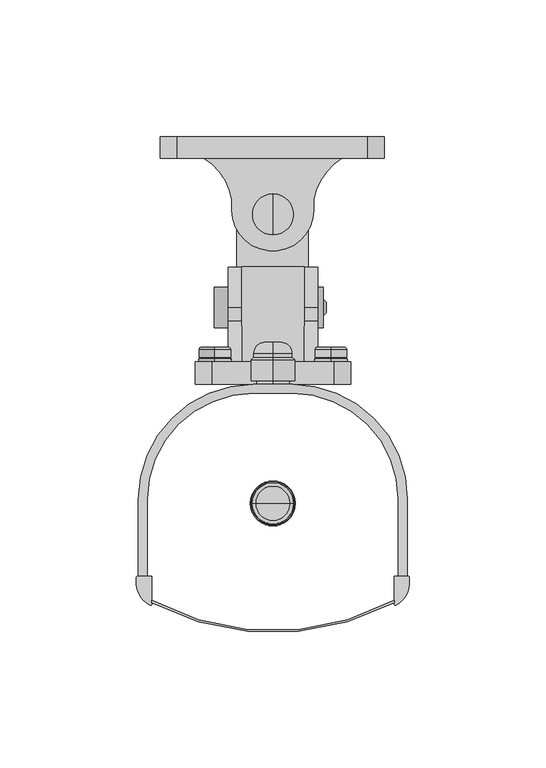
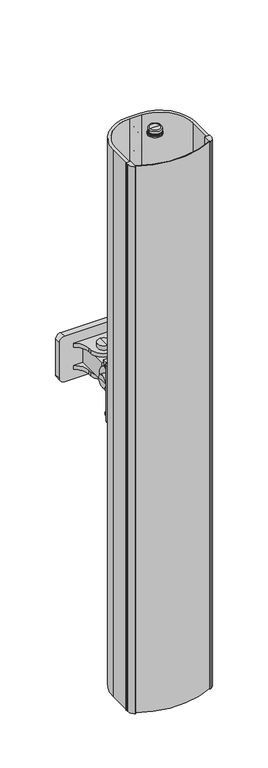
"""IFC4 building model written with IfcOpenShell, lengths in millimetres: proxy geometry, TS-C 30-700_T-EN54 : TS-C 30-700/T-EN54."""

from ifc_helpers import new_model, si_unit, point, frame, frame_2d, origin, place, context, project, spatial, polyline, circle_curve, ellipse_curve, trimmed, segment, composite_curve, outline, extrude, source, transform, mapped, element, save
from ifc_brep_helpers import plane_surface, cylinder_surface, revolved_surface, advanced_brep


def communication_devices_c1ddb917(model_context):
    return source(origin(), model_context, "Body", "SolidModel", [
        advanced_brep(
        [(-21.25, 9.0, 333.0997739), (-21.25, 9.0, 321.137496), (-21.25, 10.139588, 321.137496), (-21.25, 10.139588, 333.0997739), (-21.25, 9.0, 327.118635), (-21.25, 14.25, 332.1978352), (-21.25, 14.25, 322.0394348), (-21.25, 14.25, 327.118635), (-21.25, 13.5810517, 332.8667835), (-21.25, 13.5810517, 321.3704864), (-21.25, 10.600008, 332.8667835), (-21.25, 10.600008, 321.3704864), (-21.25, 10.600008, 331.8347804), (-21.25, 10.600008, 322.4024896)],
        [
            (0, 1, circle_curve(frame((-21.25, 9.0, 327.118635), z_axis=(0.0, 1.0, 0.0), x_axis=(0.0, 0.0, -1.0)), 5.981139)),
            (1, 2),
            (2, 3, circle_curve(frame((-21.25, 10.139588, 327.118635), z_axis=(0.0, -1.0, 0.0), x_axis=(0.0, 0.0, -1.0)), 5.981139)),
            (3, 0),
            (1, 0, circle_curve(frame((-21.25, 9.0, 327.118635), z_axis=(0.0, 1.0, 0.0), x_axis=(0.0, 0.0, -1.0)), 5.981139)),
            (3, 2, circle_curve(frame((-21.25, 10.139588, 327.118635), z_axis=(0.0, -1.0, 0.0), x_axis=(0.0, 0.0, -1.0)), 5.981139)),
            (4, 1),
            (0, 4),
            (5, 6, circle_curve(frame((-21.25, 14.25, 327.118635), z_axis=(0.0, 1.0, 0.0), x_axis=(0.0, 0.0, -1.0)), 5.0792002)),
            (6, 7),
            (7, 5),
            (6, 5, circle_curve(frame((-21.25, 14.25, 327.118635), z_axis=(0.0, 1.0, 0.0), x_axis=(0.0, 0.0, -1.0)), 5.0792002)),
            (8, 9, circle_curve(frame((-21.25, 13.5810517, 327.118635), z_axis=(0.0, 1.0, 0.0), x_axis=(0.0, 0.0, -1.0)), 5.7481485)),
            (9, 6, circle_curve(frame((-21.25, 13.5810517, 322.0394348), z_axis=(1.0, 0.0, 0.0), x_axis=(0.0, 1.0, 0.0)), 0.6689483)),
            (5, 8, circle_curve(frame((-21.25, 13.5810517, 332.1978352), z_axis=(1.0, 0.0, 0.0), x_axis=(0.0, 1.0, 0.0)), 0.6689483)),
            (9, 8, circle_curve(frame((-21.25, 13.5810517, 327.118635), z_axis=(0.0, 1.0, 0.0), x_axis=(0.0, 0.0, -1.0)), 5.7481485)),
            (10, 11, circle_curve(frame((-21.25, 10.600008, 327.118635), z_axis=(0.0, 1.0, 0.0), x_axis=(0.0, 0.0, -1.0)), 5.7481485)),
            (11, 9),
            (8, 10),
            (11, 10, circle_curve(frame((-21.25, 10.600008, 327.118635), z_axis=(0.0, 1.0, 0.0), x_axis=(0.0, 0.0, -1.0)), 5.7481485)),
            (12, 13, circle_curve(frame((-21.25, 10.600008, 327.118635), z_axis=(0.0, 1.0, 0.0), x_axis=(0.0, 0.0, -1.0)), 4.7161454)),
            (13, 11),
            (10, 12),
            (13, 12, circle_curve(frame((-21.25, 10.600008, 327.118635), z_axis=(0.0, 1.0, 0.0), x_axis=(0.0, 0.0, -1.0)), 4.7161454)),
            (2, 13),
            (12, 3),
        ],
        [
            cylinder_surface(frame((-21.25, 12.3716321, 327.118635), z_axis=(0.0, -1.0, 0.0), x_axis=(0.0, 0.0, -1.0)), 5.981139),
            plane_surface(frame((-21.25, 9.0, 327.118635), z_axis=(0.0, -1.0, 0.0), x_axis=(0.0, 0.0, -1.0))),
            plane_surface(frame((-21.25, 14.25, 327.118635), z_axis=(0.0, 1.0, 0.0), x_axis=(0.0, 0.0, -1.0))),
            revolved_surface(trimmed(ellipse_curve(frame((-21.25, 13.5810517, 322.0394348), z_axis=(-1.0, 0.0, 0.0), x_axis=(0.0, 1.0, 0.0)), 0.6689483, 0.6689483), [point((-21.25, 14.25, 322.0394348))], [point((-21.25, 13.5810517, 321.3704864))], True, "CARTESIAN"), (-21.25, 12.3716321, 327.118635), (0.0, -1.0, 0.0)),
            cylinder_surface(frame((-21.25, 12.3716321, 327.118635), z_axis=(0.0, -1.0, 0.0), x_axis=(0.0, 0.0, -1.0)), 5.7481485),
            plane_surface(frame((-21.25, 10.600008, 327.118635), z_axis=(0.0, -1.0, 0.0), x_axis=(0.0, 0.0, -1.0))),
            revolved_surface(polyline([(-21.25, 10.600008, 322.4024896), (-21.25, 10.139588, 321.137496)]), (-21.25, 12.3716321, 327.118635), (0.0, -1.0, 0.0)),
        ],
        [
            (0, [[1, 2, 3, 4]]),
            (0, [[5, -4, 6, -2]]),
            (1, [[7, -1, 8]]),
            (1, [[-8, -5, -7]]),
            (2, [[9, 10, 11]]),
            (2, [[12, -11, -10]]),
            (3, [[13, 14, -9, 15]]),
            (3, [[16, -15, -12, -14]]),
            (4, [[17, 18, -13, 19]]),
            (4, [[20, -19, -16, -18]]),
            (5, [[21, 22, -17, 23]]),
            (5, [[24, -23, -20, -22]]),
            (6, [[-3, 25, -21, 26]]),
            (6, [[-6, -26, -24, -25]]),
        ],
    ),
        advanced_brep(
        [(21.25, 10.139588, 333.0997739), (21.25, 10.139588, 321.137496), (21.25, 9.0, 321.137496), (21.25, 9.0, 333.0997739), (21.25, 9.0, 327.118635), (21.25, 14.25, 327.118635), (21.25, 14.25, 322.0394348), (21.25, 14.25, 332.1978352), (21.25, 13.5810517, 321.3704864), (21.25, 13.5810517, 332.8667835), (21.25, 10.600008, 321.3704864), (21.25, 10.600008, 332.8667835), (21.25, 10.600008, 322.4024896), (21.25, 10.600008, 331.8347804)],
        [
            (0, 1, circle_curve(frame((21.25, 10.139588, 327.118635), z_axis=(0.0, -1.0, 0.0), x_axis=(0.0, 0.0, -1.0)), 5.981139)),
            (1, 2),
            (2, 3, circle_curve(frame((21.25, 9.0, 327.118635), z_axis=(0.0, 1.0, 0.0), x_axis=(0.0, 0.0, -1.0)), 5.981139)),
            (3, 0),
            (1, 0, circle_curve(frame((21.25, 10.139588, 327.118635), z_axis=(0.0, -1.0, 0.0), x_axis=(0.0, 0.0, -1.0)), 5.981139)),
            (3, 2, circle_curve(frame((21.25, 9.0, 327.118635), z_axis=(0.0, 1.0, 0.0), x_axis=(0.0, 0.0, -1.0)), 5.981139)),
            (2, 4),
            (4, 3),
            (5, 6),
            (6, 7, circle_curve(frame((21.25, 14.25, 327.118635), z_axis=(0.0, 1.0, 0.0), x_axis=(0.0, 0.0, -1.0)), 5.0792002)),
            (7, 5),
            (7, 6, circle_curve(frame((21.25, 14.25, 327.118635), z_axis=(0.0, 1.0, 0.0), x_axis=(0.0, 0.0, -1.0)), 5.0792002)),
            (6, 8, circle_curve(frame((21.25, 13.5810517, 322.0394348), z_axis=(-1.0, 0.0, 0.0), x_axis=(0.0, 1.0, 0.0)), 0.6689483)),
            (8, 9, circle_curve(frame((21.25, 13.5810517, 327.118635), z_axis=(0.0, 1.0, 0.0), x_axis=(0.0, 0.0, -1.0)), 5.7481485)),
            (9, 7, circle_curve(frame((21.25, 13.5810517, 332.1978352), z_axis=(-1.0, 0.0, 0.0), x_axis=(0.0, 1.0, 0.0)), 0.6689483)),
            (9, 8, circle_curve(frame((21.25, 13.5810517, 327.118635), z_axis=(0.0, 1.0, 0.0), x_axis=(0.0, 0.0, -1.0)), 5.7481485)),
            (8, 10),
            (10, 11, circle_curve(frame((21.25, 10.600008, 327.118635), z_axis=(0.0, 1.0, 0.0), x_axis=(0.0, 0.0, -1.0)), 5.7481485)),
            (11, 9),
            (11, 10, circle_curve(frame((21.25, 10.600008, 327.118635), z_axis=(0.0, 1.0, 0.0), x_axis=(0.0, 0.0, -1.0)), 5.7481485)),
            (10, 12),
            (12, 13, circle_curve(frame((21.25, 10.600008, 327.118635), z_axis=(0.0, 1.0, 0.0), x_axis=(0.0, 0.0, -1.0)), 4.7161454)),
            (13, 11),
            (13, 12, circle_curve(frame((21.25, 10.600008, 327.118635), z_axis=(0.0, 1.0, 0.0), x_axis=(0.0, 0.0, -1.0)), 4.7161454)),
            (12, 1),
            (0, 13),
        ],
        [
            cylinder_surface(frame((21.25, 12.3716321, 327.118635), z_axis=(0.0, 1.0, 0.0), x_axis=(0.0, 0.0, -1.0)), 5.981139),
            plane_surface(frame((21.25, 9.0, 327.118635), z_axis=(0.0, -1.0, 0.0), x_axis=(0.0, 0.0, -1.0))),
            plane_surface(frame((21.25, 14.25, 327.118635), z_axis=(0.0, 1.0, 0.0), x_axis=(0.0, 0.0, -1.0))),
            revolved_surface(trimmed(ellipse_curve(frame((21.25, 13.5810517, 322.0394348), z_axis=(1.0, 0.0, 0.0), x_axis=(0.0, 1.0, 0.0)), 0.6689483, 0.6689483), [point((21.25, 13.5810517, 321.3704864))], [point((21.25, 14.25, 322.0394348))], True, "CARTESIAN"), (21.25, 12.3716321, 327.118635), (0.0, 1.0, 0.0)),
            cylinder_surface(frame((21.25, 12.3716321, 327.118635), z_axis=(0.0, 1.0, 0.0), x_axis=(0.0, 0.0, -1.0)), 5.7481485),
            plane_surface(frame((21.25, 10.600008, 327.118635), z_axis=(0.0, -1.0, 0.0), x_axis=(0.0, 0.0, -1.0))),
            revolved_surface(polyline([(21.25, 10.139588, 321.137496), (21.25, 10.600008, 322.4024896)]), (21.25, 12.3716321, 327.118635), (0.0, 1.0, 0.0)),
        ],
        [
            (0, [[1, 2, 3, 4]]),
            (0, [[5, -4, 6, -2]]),
            (1, [[-3, 7, 8]]),
            (1, [[-6, -8, -7]]),
            (2, [[9, 10, 11]]),
            (2, [[-11, 12, -9]]),
            (3, [[-10, 13, 14, 15]]),
            (3, [[-12, -15, 16, -13]]),
            (4, [[-14, 17, 18, 19]]),
            (4, [[-16, -19, 20, -17]]),
            (5, [[-18, 21, 22, 23]]),
            (5, [[-20, -23, 24, -21]]),
            (6, [[-22, 25, -1, 26]]),
            (6, [[-24, -26, -5, -25]]),
        ],
    ),
        advanced_brep(
        [(0.0, 61.007476, 337.199996), (0.0, 64.992524, 337.199996), (0.0, 63.0, 337.199996), (0.0, 60.007476, 338.199996), (0.0, 65.992524, 338.199996), (0.0, 55.5, 338.199996), (0.0, 70.5, 338.199996), (0.0, 55.5, 378.199996), (0.0, 70.5, 378.199996), (0.0, 63.0, 378.199996)],
        [
            (0, 1, circle_curve(frame((0.0, 63.0, 337.199996), z_axis=(0.0, 0.0, -1.0), x_axis=(0.0, 1.0, 0.0)), 1.992524)),
            (1, 2),
            (2, 0),
            (1, 0, circle_curve(frame((0.0, 63.0, 337.199996), z_axis=(0.0, 0.0, -1.0), x_axis=(0.0, 1.0, 0.0)), 1.992524)),
            (3, 4, circle_curve(frame((0.0, 63.0, 338.199996), z_axis=(0.0, 0.0, -1.0), x_axis=(0.0, 1.0, 0.0)), 2.992524)),
            (4, 1),
            (0, 3),
            (4, 3, circle_curve(frame((0.0, 63.0, 338.199996), z_axis=(0.0, 0.0, -1.0), x_axis=(0.0, 1.0, 0.0)), 2.992524)),
            (5, 6, circle_curve(frame((0.0, 63.0, 338.199996), z_axis=(0.0, 0.0, -1.0), x_axis=(0.0, 1.0, 0.0)), 7.5)),
            (6, 4),
            (3, 5),
            (6, 5, circle_curve(frame((0.0, 63.0, 338.199996), z_axis=(0.0, 0.0, -1.0), x_axis=(0.0, 1.0, 0.0)), 7.5)),
            (7, 8, circle_curve(frame((0.0, 63.0, 378.199996), z_axis=(0.0, 0.0, -1.0), x_axis=(0.0, 1.0, 0.0)), 7.5)),
            (8, 6),
            (5, 7),
            (8, 7, circle_curve(frame((0.0, 63.0, 378.199996), z_axis=(0.0, 0.0, -1.0), x_axis=(0.0, 1.0, 0.0)), 7.5)),
            (9, 8),
            (7, 9),
        ],
        [
            plane_surface(frame((0.0, 63.0, 337.199996), z_axis=(0.0, 0.0, -1.0), x_axis=(0.0, 1.0, 0.0))),
            revolved_surface(polyline([(0.0, 64.992524, 337.199996), (0.0, 65.992524, 338.199996)]), (0.0, 63.0, 351.5973632), (0.0, 0.0, 1.0)),
            plane_surface(frame((0.0, 63.0, 338.199996), z_axis=(0.0, 0.0, -1.0), x_axis=(0.0, 1.0, 0.0))),
            cylinder_surface(frame((0.0, 63.0, 351.5973632), z_axis=(0.0, 0.0, 1.0), x_axis=(0.0, 1.0, 0.0)), 7.5),
            plane_surface(frame((0.0, 63.0, 378.199996), z_axis=(0.0, 0.0, 1.0), x_axis=(0.0, 1.0, 0.0))),
        ],
        [
            (0, [[1, 2, 3]]),
            (0, [[4, -3, -2]]),
            (1, [[5, 6, -1, 7]]),
            (1, [[8, -7, -4, -6]]),
            (2, [[9, 10, -5, 11]]),
            (2, [[12, -11, -8, -10]]),
            (3, [[13, 14, -9, 15]]),
            (3, [[16, -15, -12, -14]]),
            (4, [[17, -13, 18]]),
            (4, [[-18, -16, -17]]),
        ],
    ),
        advanced_brep(
        [(-21.5, 21.375002, 356.875), (-21.5, 36.375, 356.875), (18.5, 36.375, 356.875), (18.5, 21.375002, 356.875), (-21.5, 28.875001, 356.875), (19.5, 26.882478, 356.875), (19.5, 30.867524, 356.875), (19.5, 28.875001, 356.875), (18.5, 25.882478, 356.875), (18.5, 31.867524, 356.875)],
        [
            (0, 1, circle_curve(frame((-21.5, 28.875001, 356.875), z_axis=(1.0, 0.0, 0.0), x_axis=(0.0, 1.0, 0.0)), 7.499999)),
            (1, 2),
            (2, 3, circle_curve(frame((18.5, 28.875001, 356.875), z_axis=(-1.0, 0.0, 0.0), x_axis=(0.0, 1.0, 0.0)), 7.499999)),
            (3, 0),
            (1, 0, circle_curve(frame((-21.5, 28.875001, 356.875), z_axis=(1.0, 0.0, 0.0), x_axis=(0.0, 1.0, 0.0)), 7.499999)),
            (3, 2, circle_curve(frame((18.5, 28.875001, 356.875), z_axis=(-1.0, 0.0, 0.0), x_axis=(0.0, 1.0, 0.0)), 7.499999)),
            (4, 1),
            (0, 4),
            (5, 6, circle_curve(frame((19.5, 28.875001, 356.875), z_axis=(1.0, 0.0, 0.0), x_axis=(0.0, 1.0, 0.0)), 1.992523)),
            (6, 7),
            (7, 5),
            (6, 5, circle_curve(frame((19.5, 28.875001, 356.875), z_axis=(1.0, 0.0, 0.0), x_axis=(0.0, 1.0, 0.0)), 1.992523)),
            (8, 9, circle_curve(frame((18.5, 28.875001, 356.875), z_axis=(1.0, 0.0, 0.0), x_axis=(0.0, 1.0, 0.0)), 2.992523)),
            (9, 6),
            (5, 8),
            (9, 8, circle_curve(frame((18.5, 28.875001, 356.875), z_axis=(1.0, 0.0, 0.0), x_axis=(0.0, 1.0, 0.0)), 2.992523)),
            (2, 9),
            (8, 3),
        ],
        [
            cylinder_surface(frame((-3.4349086, 28.875001, 356.875), z_axis=(-1.0, 0.0, 0.0), x_axis=(0.0, 1.0, 0.0)), 7.499999),
            plane_surface(frame((-21.5, 28.875001, 356.875), z_axis=(-1.0, 0.0, 0.0), x_axis=(0.0, 1.0, 0.0))),
            plane_surface(frame((19.5, 28.875001, 356.875), z_axis=(1.0, 0.0, 0.0), x_axis=(0.0, 1.0, 0.0))),
            revolved_surface(polyline([(19.5, 30.867524, 356.875), (18.5, 31.867524, 356.875)]), (-3.4349086, 28.875001, 356.875), (-1.0, 0.0, 0.0)),
            plane_surface(frame((18.5, 28.875001, 356.875), z_axis=(1.0, 0.0, 0.0), x_axis=(0.0, 1.0, 0.0))),
        ],
        [
            (0, [[1, 2, 3, 4]]),
            (0, [[5, -4, 6, -2]]),
            (1, [[7, -1, 8]]),
            (1, [[-8, -5, -7]]),
            (2, [[9, 10, 11]]),
            (2, [[12, -11, -10]]),
            (3, [[13, 14, -9, 15]]),
            (3, [[16, -15, -12, -14]]),
            (4, [[-3, 17, -13, 18]]),
            (4, [[-6, -18, -16, -17]]),
        ],
    ),
        extrude(outline(composite_curve([segment(trimmed(circle_curve(frame_2d((379.199996, -35.2248208)), 6.0), [point((385.199996, -35.2248208))], [point((379.199996, -41.2248208))], False, "CARTESIAN"), True, "CONTINUOUS"), segment(polyline([(379.199996, -41.2248208), (334.199996, -41.2248208)]), True, "CONTINUOUS"), segment(trimmed(circle_curve(frame_2d((334.199996, -35.2248208)), 6.0), [point((334.199996, -41.2248208))], [point((328.199996, -35.2248208))], False, "CARTESIAN"), True, "CONTINUOUS"), segment(polyline([(328.199996, -35.2248208), (328.199996, 34.7751792)]), True, "CONTINUOUS"), segment(trimmed(circle_curve(frame_2d((334.199996, 34.7751792)), 6.0), [point((328.199996, 34.7751792))], [point((334.199996, 40.7751792))], False, "CARTESIAN"), True, "CONTINUOUS"), segment(polyline([(334.199996, 40.7751792), (379.199996, 40.7751792)]), True, "CONTINUOUS"), segment(trimmed(circle_curve(frame_2d((379.199996, 34.7751792)), 6.0), [point((379.199996, 40.7751792))], [point((385.199996, 34.7751792))], False, "CARTESIAN"), True, "CONTINUOUS"), segment(polyline([(385.199996, 34.7751792), (385.199996, -35.2248208)]), True, "CONTINUOUS")], self_intersect=False)), frame((0.0, 83.5, 0.0), z_axis=(0.0, 1.0, 0.0), x_axis=(0.0, 0.0, 1.0)), (0.0, 0.0, 1.0), 8.0),
        extrude(outline(polyline([(-13.2981208, 43.774882), (-13.2981208, 83.5), (13.0, 83.5), (13.0, 43.774882), (-13.2981208, 43.774882)])), frame((0.0, 0.0, 345.2284716), z_axis=(0.0, 0.0, 1.0), x_axis=(1.0, 0.0, 0.0)), (0.0, 0.0, 1.0), 22.9715244),
        extrude(outline(polyline([(11.5, 43.774882), (11.5, 9.0), (-11.421106, 9.0), (-11.421106, 43.774882), (11.5, 43.774882)])), frame((0.0, 0.0, 340.2284716), z_axis=(0.0, 0.0, 1.0), x_axis=(1.0, 0.0, 0.0)), (0.0, 0.0, 1.0), 31.4715244),
        extrude(outline(composite_curve([segment(trimmed(circle_curve(frame_2d((28.774882, 356.699996)), 15.0), [point((28.774882, 371.699996))], [point((28.774882, 341.699996))], False, "CARTESIAN"), True, "CONTINUOUS"), segment(polyline([(28.774882, 341.699996), (24.01576, 341.699996)]), True, "CONTINUOUS"), segment(trimmed(circle_curve(frame_2d((27.899538, 319.92778)), 22.115902), [point((24.01576, 341.699996))], [point((9.0, 331.4134487))], True, "CARTESIAN"), True, "CONTINUOUS"), segment(polyline([(9.0, 331.4134487), (9.0, 381.9865453)]), True, "CONTINUOUS"), segment(trimmed(circle_curve(frame_2d((27.899538, 393.472214)), 22.115902), [point((9.0, 381.9865453))], [point((24.0157712, 371.699996))], True, "CARTESIAN"), True, "CONTINUOUS"), segment(polyline([(24.0157712, 371.699996), (28.774882, 371.699996)]), True, "CONTINUOUS")], self_intersect=False)), frame((-16.421106, 0.0, 0.0), z_axis=(1.0, 0.0, 0.0), x_axis=(0.0, 1.0, 0.0)), (0.0, 0.0, 1.0), 5.0),
        extrude(outline(composite_curve([segment(trimmed(circle_curve(frame_2d((0.0, 64.5832153)), 15.0), [point((15.0, 64.5832153))], [point((-15.0, 64.5832153))], False, "CARTESIAN"), True, "CONTINUOUS"), segment(polyline([(-15.0, 64.5832153), (-15.0, 68.4842168)]), True, "CONTINUOUS"), segment(trimmed(circle_curve(frame_2d((-36.772218, 64.60045)), 22.115902), [point((-15.0, 68.4842168))], [point((-25.2865691, 83.5))], True, "CARTESIAN"), True, "CONTINUOUS"), segment(polyline([(-25.2865691, 83.5), (25.2865671, 83.5)]), True, "CONTINUOUS"), segment(trimmed(circle_curve(frame_2d((36.772216, 64.60045)), 22.115902), [point((25.2865671, 83.5))], [point((15.0, 68.484228))], True, "CARTESIAN"), True, "CONTINUOUS"), segment(polyline([(15.0, 68.484228), (15.0, 64.5832153)]), True, "CONTINUOUS")], self_intersect=False)), frame((0.0, 0.0, 340.2284716), z_axis=(0.0, 0.0, 1.0), x_axis=(1.0, 0.0, 0.0)), (0.0, 0.0, 1.0), 5.0),
        extrude(outline(composite_curve([segment(trimmed(circle_curve(frame_2d((0.0, 64.5832153)), 15.0), [point((15.0, 64.5832153))], [point((-15.0, 64.5832153))], False, "CARTESIAN"), True, "CONTINUOUS"), segment(polyline([(-15.0, 64.5832153), (-15.0, 68.4842168)]), True, "CONTINUOUS"), segment(trimmed(circle_curve(frame_2d((-36.772218, 64.60045)), 22.115902), [point((-15.0, 68.4842168))], [point((-25.2865691, 83.5))], True, "CARTESIAN"), True, "CONTINUOUS"), segment(polyline([(-25.2865691, 83.5), (25.2865671, 83.5)]), True, "CONTINUOUS"), segment(trimmed(circle_curve(frame_2d((36.772216, 64.60045)), 22.115902), [point((25.2865671, 83.5))], [point((15.0, 68.484228))], True, "CARTESIAN"), True, "CONTINUOUS"), segment(polyline([(15.0, 68.484228), (15.0, 64.5832153)]), True, "CONTINUOUS")], self_intersect=False)), frame((0.0, 0.0, 368.199996), z_axis=(0.0, 0.0, 1.0), x_axis=(1.0, 0.0, 0.0)), (0.0, 0.0, 1.0), 5.0),
        extrude(outline(composite_curve([segment(trimmed(circle_curve(frame_2d((28.774882, 356.699996)), 15.0), [point((28.774882, 371.699996))], [point((28.774882, 341.699996))], False, "CARTESIAN"), True, "CONTINUOUS"), segment(polyline([(28.774882, 341.699996), (24.01576, 341.699996)]), True, "CONTINUOUS"), segment(trimmed(circle_curve(frame_2d((27.899538, 319.92778)), 22.115902), [point((24.01576, 341.699996))], [point((9.0, 331.4134487))], True, "CARTESIAN"), True, "CONTINUOUS"), segment(polyline([(9.0, 331.4134487), (9.0, 381.9865453)]), True, "CONTINUOUS"), segment(trimmed(circle_curve(frame_2d((27.899538, 393.472214)), 22.115902), [point((9.0, 381.9865453))], [point((24.0157712, 371.699996))], True, "CARTESIAN"), True, "CONTINUOUS"), segment(polyline([(24.0157712, 371.699996), (28.774882, 371.699996)]), True, "CONTINUOUS")], self_intersect=False)), frame((11.5, 0.0, 0.0), z_axis=(1.0, 0.0, 0.0), x_axis=(0.0, 1.0, 0.0)), (0.0, 0.0, 1.0), 5.0),
        extrude(outline(composite_curve([segment(trimmed(circle_curve(frame_2d((391.614283, -22.414287)), 6.085713), [point((397.699996, -22.414287))], [point((391.614283, -28.5))], False, "CARTESIAN"), True, "CONTINUOUS"), segment(polyline([(391.614283, -28.5), (321.799996, -28.5)]), True, "CONTINUOUS"), segment(trimmed(circle_curve(frame_2d((321.799996, -22.4)), 6.1), [point((321.799996, -28.5))], [point((315.699996, -22.4))], False, "CARTESIAN"), True, "CONTINUOUS"), segment(polyline([(315.699996, -22.4), (315.699996, 22.4)]), True, "CONTINUOUS"), segment(trimmed(circle_curve(frame_2d((321.799996, 22.4)), 6.1), [point((315.699996, 22.4))], [point((321.799996, 28.5))], False, "CARTESIAN"), True, "CONTINUOUS"), segment(polyline([(321.799996, 28.5), (391.599996, 28.5)]), True, "CONTINUOUS"), segment(trimmed(circle_curve(frame_2d((391.599996, 22.4)), 6.1), [point((391.599996, 28.5))], [point((397.699996, 22.4))], False, "CARTESIAN"), True, "CONTINUOUS"), segment(polyline([(397.699996, 22.4), (397.699996, -22.414287)]), True, "CONTINUOUS")], self_intersect=False)), frame((0.0, 0.6574121, 0.0), z_axis=(0.0, 1.0, 0.0), x_axis=(0.0, 0.0, 1.0)), (0.0, 0.0, 1.0), 8.3425879),
        advanced_brep(
        [(-21.25, 10.139588, 380.4877181), (-21.25, 10.139588, 392.449996), (-21.25, 9.0, 392.449996), (-21.25, 9.0, 380.4877181), (-21.25, 9.0, 386.468857), (-21.25, 14.25, 386.468857), (-21.25, 14.25, 391.5480572), (-21.25, 14.25, 381.3896568), (-21.25, 13.5810517, 392.2170056), (-21.25, 13.5810517, 380.7207085), (-21.25, 10.600008, 392.2170056), (-21.25, 10.600008, 380.7207085), (-21.25, 10.600008, 391.1850024), (-21.25, 10.600008, 381.7527116)],
        [
            (0, 1, circle_curve(frame((-21.25, 10.139588, 386.468857), z_axis=(0.0, -1.0, 0.0), x_axis=(0.0, 0.0, 1.0)), 5.981139)),
            (1, 2),
            (2, 3, circle_curve(frame((-21.25, 9.0, 386.468857), z_axis=(0.0, 1.0, 0.0), x_axis=(0.0, 0.0, 1.0)), 5.981139)),
            (3, 0),
            (1, 0, circle_curve(frame((-21.25, 10.139588, 386.468857), z_axis=(0.0, -1.0, 0.0), x_axis=(0.0, 0.0, 1.0)), 5.981139)),
            (3, 2, circle_curve(frame((-21.25, 9.0, 386.468857), z_axis=(0.0, 1.0, 0.0), x_axis=(0.0, 0.0, 1.0)), 5.981139)),
            (2, 4),
            (4, 3),
            (5, 6),
            (6, 7, circle_curve(frame((-21.25, 14.25, 386.468857), z_axis=(0.0, 1.0, 0.0), x_axis=(0.0, 0.0, 1.0)), 5.0792002)),
            (7, 5),
            (7, 6, circle_curve(frame((-21.25, 14.25, 386.468857), z_axis=(0.0, 1.0, 0.0), x_axis=(0.0, 0.0, 1.0)), 5.0792002)),
            (6, 8, circle_curve(frame((-21.25, 13.5810517, 391.5480572), z_axis=(1.0, 0.0, 0.0), x_axis=(0.0, 1.0, 0.0)), 0.6689483)),
            (8, 9, circle_curve(frame((-21.25, 13.5810517, 386.468857), z_axis=(0.0, 1.0, 0.0), x_axis=(0.0, 0.0, 1.0)), 5.7481485)),
            (9, 7, circle_curve(frame((-21.25, 13.5810517, 381.3896568), z_axis=(1.0, 0.0, 0.0), x_axis=(0.0, 1.0, 0.0)), 0.6689483)),
            (9, 8, circle_curve(frame((-21.25, 13.5810517, 386.468857), z_axis=(0.0, 1.0, 0.0), x_axis=(0.0, 0.0, 1.0)), 5.7481485)),
            (8, 10),
            (10, 11, circle_curve(frame((-21.25, 10.600008, 386.468857), z_axis=(0.0, 1.0, 0.0), x_axis=(0.0, 0.0, 1.0)), 5.7481485)),
            (11, 9),
            (11, 10, circle_curve(frame((-21.25, 10.600008, 386.468857), z_axis=(0.0, 1.0, 0.0), x_axis=(0.0, 0.0, 1.0)), 5.7481485)),
            (10, 12),
            (12, 13, circle_curve(frame((-21.25, 10.600008, 386.468857), z_axis=(0.0, 1.0, 0.0), x_axis=(0.0, 0.0, 1.0)), 4.7161454)),
            (13, 11),
            (13, 12, circle_curve(frame((-21.25, 10.600008, 386.468857), z_axis=(0.0, 1.0, 0.0), x_axis=(0.0, 0.0, 1.0)), 4.7161454)),
            (12, 1),
            (0, 13),
        ],
        [
            cylinder_surface(frame((-21.25, 12.3716321, 386.468857), z_axis=(0.0, 1.0, 0.0), x_axis=(0.0, 0.0, 1.0)), 5.981139),
            plane_surface(frame((-21.25, 9.0, 386.468857), z_axis=(0.0, -1.0, 0.0), x_axis=(0.0, 0.0, 1.0))),
            plane_surface(frame((-21.25, 14.25, 386.468857), z_axis=(0.0, 1.0, 0.0), x_axis=(0.0, 0.0, 1.0))),
            revolved_surface(trimmed(ellipse_curve(frame((-21.25, 13.5810517, 391.5480572), z_axis=(-1.0, 0.0, 0.0), x_axis=(0.0, 1.0, 0.0)), 0.6689483, 0.6689483), [point((-21.25, 13.5810517, 392.2170056))], [point((-21.25, 14.25, 391.5480572))], True, "CARTESIAN"), (-21.25, 12.3716321, 386.468857), (0.0, 1.0, 0.0)),
            cylinder_surface(frame((-21.25, 12.3716321, 386.468857), z_axis=(0.0, 1.0, 0.0), x_axis=(0.0, 0.0, 1.0)), 5.7481485),
            plane_surface(frame((-21.25, 10.600008, 386.468857), z_axis=(0.0, -1.0, 0.0), x_axis=(0.0, 0.0, 1.0))),
            revolved_surface(polyline([(-21.25, 10.139588, 392.449996), (-21.25, 10.600008, 391.1850024)]), (-21.25, 12.3716321, 386.468857), (0.0, 1.0, 0.0)),
        ],
        [
            (0, [[1, 2, 3, 4]]),
            (0, [[5, -4, 6, -2]]),
            (1, [[-3, 7, 8]]),
            (1, [[-6, -8, -7]]),
            (2, [[9, 10, 11]]),
            (2, [[-11, 12, -9]]),
            (3, [[-10, 13, 14, 15]]),
            (3, [[-12, -15, 16, -13]]),
            (4, [[-14, 17, 18, 19]]),
            (4, [[-16, -19, 20, -17]]),
            (5, [[-18, 21, 22, 23]]),
            (5, [[-20, -23, 24, -21]]),
            (6, [[-22, 25, -1, 26]]),
            (6, [[-24, -26, -5, -25]]),
        ],
    ),
        advanced_brep(
        [(21.25, 9.0, 380.4877181), (21.25, 9.0, 392.449996), (21.25, 10.139588, 392.449996), (21.25, 10.139588, 380.4877181), (21.25, 9.0, 386.468857), (21.25, 14.25, 381.3896568), (21.25, 14.25, 391.5480572), (21.25, 14.25, 386.468857), (21.25, 13.5810517, 380.7207085), (21.25, 13.5810517, 392.2170056), (21.25, 10.600008, 380.7207085), (21.25, 10.600008, 392.2170056), (21.25, 10.600008, 381.7527116), (21.25, 10.600008, 391.1850024)],
        [
            (0, 1, circle_curve(frame((21.25, 9.0, 386.468857), z_axis=(0.0, 1.0, 0.0), x_axis=(0.0, 0.0, 1.0)), 5.981139)),
            (1, 2),
            (2, 3, circle_curve(frame((21.25, 10.139588, 386.468857), z_axis=(0.0, -1.0, 0.0), x_axis=(0.0, 0.0, 1.0)), 5.981139)),
            (3, 0),
            (1, 0, circle_curve(frame((21.25, 9.0, 386.468857), z_axis=(0.0, 1.0, 0.0), x_axis=(0.0, 0.0, 1.0)), 5.981139)),
            (3, 2, circle_curve(frame((21.25, 10.139588, 386.468857), z_axis=(0.0, -1.0, 0.0), x_axis=(0.0, 0.0, 1.0)), 5.981139)),
            (4, 1),
            (0, 4),
            (5, 6, circle_curve(frame((21.25, 14.25, 386.468857), z_axis=(0.0, 1.0, 0.0), x_axis=(0.0, 0.0, 1.0)), 5.0792002)),
            (6, 7),
            (7, 5),
            (6, 5, circle_curve(frame((21.25, 14.25, 386.468857), z_axis=(0.0, 1.0, 0.0), x_axis=(0.0, 0.0, 1.0)), 5.0792002)),
            (8, 9, circle_curve(frame((21.25, 13.5810517, 386.468857), z_axis=(0.0, 1.0, 0.0), x_axis=(0.0, 0.0, 1.0)), 5.7481485)),
            (9, 6, circle_curve(frame((21.25, 13.5810517, 391.5480572), z_axis=(-1.0, 0.0, 0.0), x_axis=(0.0, 1.0, 0.0)), 0.6689483)),
            (5, 8, circle_curve(frame((21.25, 13.5810517, 381.3896568), z_axis=(-1.0, 0.0, 0.0), x_axis=(0.0, 1.0, 0.0)), 0.6689483)),
            (9, 8, circle_curve(frame((21.25, 13.5810517, 386.468857), z_axis=(0.0, 1.0, 0.0), x_axis=(0.0, 0.0, 1.0)), 5.7481485)),
            (10, 11, circle_curve(frame((21.25, 10.600008, 386.468857), z_axis=(0.0, 1.0, 0.0), x_axis=(0.0, 0.0, 1.0)), 5.7481485)),
            (11, 9),
            (8, 10),
            (11, 10, circle_curve(frame((21.25, 10.600008, 386.468857), z_axis=(0.0, 1.0, 0.0), x_axis=(0.0, 0.0, 1.0)), 5.7481485)),
            (12, 13, circle_curve(frame((21.25, 10.600008, 386.468857), z_axis=(0.0, 1.0, 0.0), x_axis=(0.0, 0.0, 1.0)), 4.7161454)),
            (13, 11),
            (10, 12),
            (13, 12, circle_curve(frame((21.25, 10.600008, 386.468857), z_axis=(0.0, 1.0, 0.0), x_axis=(0.0, 0.0, 1.0)), 4.7161454)),
            (2, 13),
            (12, 3),
        ],
        [
            cylinder_surface(frame((21.25, 12.3716321, 386.468857), z_axis=(0.0, -1.0, 0.0), x_axis=(0.0, 0.0, 1.0)), 5.981139),
            plane_surface(frame((21.25, 9.0, 386.468857), z_axis=(0.0, -1.0, 0.0), x_axis=(0.0, 0.0, 1.0))),
            plane_surface(frame((21.25, 14.25, 386.468857), z_axis=(0.0, 1.0, 0.0), x_axis=(0.0, 0.0, 1.0))),
            revolved_surface(trimmed(ellipse_curve(frame((21.25, 13.5810517, 391.5480572), z_axis=(1.0, 0.0, 0.0), x_axis=(0.0, 1.0, 0.0)), 0.6689483, 0.6689483), [point((21.25, 14.25, 391.5480572))], [point((21.25, 13.5810517, 392.2170056))], True, "CARTESIAN"), (21.25, 12.3716321, 386.468857), (0.0, -1.0, 0.0)),
            cylinder_surface(frame((21.25, 12.3716321, 386.468857), z_axis=(0.0, -1.0, 0.0), x_axis=(0.0, 0.0, 1.0)), 5.7481485),
            plane_surface(frame((21.25, 10.600008, 386.468857), z_axis=(0.0, -1.0, 0.0), x_axis=(0.0, 0.0, 1.0))),
            revolved_surface(polyline([(21.25, 10.600008, 391.1850024), (21.25, 10.139588, 392.449996)]), (21.25, 12.3716321, 386.468857), (0.0, -1.0, 0.0)),
        ],
        [
            (0, [[1, 2, 3, 4]]),
            (0, [[5, -4, 6, -2]]),
            (1, [[7, -1, 8]]),
            (1, [[-8, -5, -7]]),
            (2, [[9, 10, 11]]),
            (2, [[12, -11, -10]]),
            (3, [[13, 14, -9, 15]]),
            (3, [[16, -15, -12, -14]]),
            (4, [[17, 18, -13, 19]]),
            (4, [[20, -19, -16, -18]]),
            (5, [[21, 22, -17, 23]]),
            (5, [[24, -23, -20, -22]]),
            (6, [[-3, 25, -21, 26]]),
            (6, [[-6, -26, -24, -25]]),
        ],
    ),
        advanced_brep(
        [(0.0, 0.5458566, 639.9487199), (0.0, 0.5458566, 651.949996), (0.0, 2.0, 651.949996), (0.0, 2.0, 639.9487199), (0.0, 0.5458566, 645.949358), (0.0, 16.0, 642.8577378), (0.0, 16.0, 649.0409782), (0.0, 16.0, 645.949358), (0.0, 12.0909822, 638.9487199), (0.0, 12.0909822, 652.949996), (0.0, 10.600008, 638.9487199), (0.0, 10.600008, 652.949996), (0.0, 9.600008, 637.9487199), (0.0, 9.600008, 653.949996), (0.0, 2.0, 637.9487199), (0.0, 2.0, 653.949996)],
        [
            (0, 1, circle_curve(frame((0.0, 0.5458566, 645.949358), z_axis=(0.0, 1.0, 0.0), x_axis=(0.0, 0.0, 1.0)), 6.000638)),
            (1, 2),
            (2, 3, circle_curve(frame((0.0, 2.0, 645.949358), z_axis=(0.0, -1.0, 0.0), x_axis=(0.0, 0.0, 1.0)), 6.000638)),
            (3, 0),
            (1, 0, circle_curve(frame((0.0, 0.5458566, 645.949358), z_axis=(0.0, 1.0, 0.0), x_axis=(0.0, 0.0, 1.0)), 6.000638)),
            (3, 2, circle_curve(frame((0.0, 2.0, 645.949358), z_axis=(0.0, -1.0, 0.0), x_axis=(0.0, 0.0, 1.0)), 6.000638)),
            (4, 1),
            (0, 4),
            (5, 6, circle_curve(frame((0.0, 16.0, 645.949358), z_axis=(0.0, 1.0, 0.0), x_axis=(0.0, 0.0, 1.0)), 3.0916202)),
            (6, 7),
            (7, 5),
            (6, 5, circle_curve(frame((0.0, 16.0, 645.949358), z_axis=(0.0, 1.0, 0.0), x_axis=(0.0, 0.0, 1.0)), 3.0916202)),
            (8, 9, circle_curve(frame((0.0, 12.0909822, 645.949358), z_axis=(0.0, 1.0, 0.0), x_axis=(0.0, 0.0, 1.0)), 7.000638)),
            (9, 6, circle_curve(frame((0.0, 12.0909822, 649.0409782), z_axis=(-1.0, 0.0, 0.0), x_axis=(0.0, 1.0, 0.0)), 3.9090178)),
            (5, 8, circle_curve(frame((0.0, 12.0909822, 642.8577378), z_axis=(-1.0, 0.0, 0.0), x_axis=(0.0, 1.0, 0.0)), 3.9090178)),
            (9, 8, circle_curve(frame((0.0, 12.0909822, 645.949358), z_axis=(0.0, 1.0, 0.0), x_axis=(0.0, 0.0, 1.0)), 7.000638)),
            (10, 11, circle_curve(frame((0.0, 10.600008, 645.949358), z_axis=(0.0, 1.0, 0.0), x_axis=(0.0, 0.0, 1.0)), 7.000638)),
            (11, 9),
            (8, 10),
            (11, 10, circle_curve(frame((0.0, 10.600008, 645.949358), z_axis=(0.0, 1.0, 0.0), x_axis=(0.0, 0.0, 1.0)), 7.000638)),
            (12, 13, circle_curve(frame((0.0, 9.600008, 645.949358), z_axis=(0.0, 1.0, 0.0), x_axis=(0.0, 0.0, 1.0)), 8.000638)),
            (13, 11),
            (10, 12),
            (13, 12, circle_curve(frame((0.0, 9.600008, 645.949358), z_axis=(0.0, 1.0, 0.0), x_axis=(0.0, 0.0, 1.0)), 8.000638)),
            (14, 15, circle_curve(frame((0.0, 2.0, 645.949358), z_axis=(0.0, 1.0, 0.0), x_axis=(0.0, 0.0, 1.0)), 8.000638)),
            (15, 13),
            (12, 14),
            (15, 14, circle_curve(frame((0.0, 2.0, 645.949358), z_axis=(0.0, 1.0, 0.0), x_axis=(0.0, 0.0, 1.0)), 8.000638)),
            (2, 15),
            (14, 3),
        ],
        [
            cylinder_surface(frame((0.0, 3.9079042, 645.949358), z_axis=(0.0, -1.0, 0.0), x_axis=(0.0, 0.0, 1.0)), 6.000638),
            plane_surface(frame((0.0, 0.5458566, 645.949358), z_axis=(0.0, -1.0, 0.0), x_axis=(0.0, 0.0, 1.0))),
            plane_surface(frame((0.0, 16.0, 645.949358), z_axis=(0.0, 1.0, 0.0), x_axis=(0.0, 0.0, 1.0))),
            revolved_surface(trimmed(ellipse_curve(frame((0.0, 12.0909822, 649.0409782), z_axis=(1.0, 0.0, 0.0), x_axis=(0.0, 1.0, 0.0)), 3.9090178, 3.9090178), [point((0.0, 16.0, 649.0409782))], [point((0.0, 12.0909822, 652.949996))], True, "CARTESIAN"), (0.0, 3.9079042, 645.949358), (0.0, -1.0, 0.0)),
            cylinder_surface(frame((0.0, 3.9079042, 645.949358), z_axis=(0.0, -1.0, 0.0), x_axis=(0.0, 0.0, 1.0)), 7.000638),
            revolved_surface(polyline([(0.0, 10.600008, 652.949996), (0.0, 9.600008, 653.949996)]), (0.0, 3.9079042, 645.949358), (0.0, -1.0, 0.0)),
            cylinder_surface(frame((0.0, 3.9079042, 645.949358), z_axis=(0.0, -1.0, 0.0), x_axis=(0.0, 0.0, 1.0)), 8.000638),
            plane_surface(frame((0.0, 2.0, 645.949358), z_axis=(0.0, -1.0, 0.0), x_axis=(0.0, 0.0, 1.0))),
        ],
        [
            (0, [[1, 2, 3, 4]]),
            (0, [[5, -4, 6, -2]]),
            (1, [[7, -1, 8]]),
            (1, [[-8, -5, -7]]),
            (2, [[9, 10, 11]]),
            (2, [[12, -11, -10]]),
            (3, [[13, 14, -9, 15]]),
            (3, [[16, -15, -12, -14]]),
            (4, [[17, 18, -13, 19]]),
            (4, [[20, -19, -16, -18]]),
            (5, [[21, 22, -17, 23]]),
            (5, [[24, -23, -20, -22]]),
            (6, [[25, 26, -21, 27]]),
            (6, [[28, -27, -24, -26]]),
            (7, [[-3, 29, -25, 30]]),
            (7, [[-6, -30, -28, -29]]),
        ],
    ),
        advanced_brep(
        [(0.0, 0.5458566, 669.9487199), (0.0, 0.5458566, 681.949996), (0.0, 2.0, 681.949996), (0.0, 2.0, 669.9487199), (0.0, 0.5458566, 675.949358), (0.0, 16.0, 672.8577378), (0.0, 16.0, 679.0409782), (0.0, 16.0, 675.949358), (0.0, 12.0909822, 668.9487199), (0.0, 12.0909822, 682.949996), (0.0, 10.600008, 668.9487199), (0.0, 10.600008, 682.949996), (0.0, 9.600008, 667.9487199), (0.0, 9.600008, 683.949996), (0.0, 2.0, 667.9487199), (0.0, 2.0, 683.949996)],
        [
            (0, 1, circle_curve(frame((0.0, 0.5458566, 675.949358), z_axis=(0.0, 1.0, 0.0), x_axis=(0.0, 0.0, 1.0)), 6.000638)),
            (1, 2),
            (2, 3, circle_curve(frame((0.0, 2.0, 675.949358), z_axis=(0.0, -1.0, 0.0), x_axis=(0.0, 0.0, 1.0)), 6.000638)),
            (3, 0),
            (1, 0, circle_curve(frame((0.0, 0.5458566, 675.949358), z_axis=(0.0, 1.0, 0.0), x_axis=(0.0, 0.0, 1.0)), 6.000638)),
            (3, 2, circle_curve(frame((0.0, 2.0, 675.949358), z_axis=(0.0, -1.0, 0.0), x_axis=(0.0, 0.0, 1.0)), 6.000638)),
            (4, 1),
            (0, 4),
            (5, 6, circle_curve(frame((0.0, 16.0, 675.949358), z_axis=(0.0, 1.0, 0.0), x_axis=(0.0, 0.0, 1.0)), 3.0916202)),
            (6, 7),
            (7, 5),
            (6, 5, circle_curve(frame((0.0, 16.0, 675.949358), z_axis=(0.0, 1.0, 0.0), x_axis=(0.0, 0.0, 1.0)), 3.0916202)),
            (8, 9, circle_curve(frame((0.0, 12.0909822, 675.949358), z_axis=(0.0, 1.0, 0.0), x_axis=(0.0, 0.0, 1.0)), 7.000638)),
            (9, 6, circle_curve(frame((0.0, 12.0909822, 679.0409782), z_axis=(-1.0, 0.0, 0.0), x_axis=(0.0, 1.0, 0.0)), 3.9090178)),
            (5, 8, circle_curve(frame((0.0, 12.0909822, 672.8577378), z_axis=(-1.0, 0.0, 0.0), x_axis=(0.0, 1.0, 0.0)), 3.9090178)),
            (9, 8, circle_curve(frame((0.0, 12.0909822, 675.949358), z_axis=(0.0, 1.0, 0.0), x_axis=(0.0, 0.0, 1.0)), 7.000638)),
            (10, 11, circle_curve(frame((0.0, 10.600008, 675.949358), z_axis=(0.0, 1.0, 0.0), x_axis=(0.0, 0.0, 1.0)), 7.000638)),
            (11, 9),
            (8, 10),
            (11, 10, circle_curve(frame((0.0, 10.600008, 675.949358), z_axis=(0.0, 1.0, 0.0), x_axis=(0.0, 0.0, 1.0)), 7.000638)),
            (12, 13, circle_curve(frame((0.0, 9.600008, 675.949358), z_axis=(0.0, 1.0, 0.0), x_axis=(0.0, 0.0, 1.0)), 8.000638)),
            (13, 11),
            (10, 12),
            (13, 12, circle_curve(frame((0.0, 9.600008, 675.949358), z_axis=(0.0, 1.0, 0.0), x_axis=(0.0, 0.0, 1.0)), 8.000638)),
            (14, 15, circle_curve(frame((0.0, 2.0, 675.949358), z_axis=(0.0, 1.0, 0.0), x_axis=(0.0, 0.0, 1.0)), 8.000638)),
            (15, 13),
            (12, 14),
            (15, 14, circle_curve(frame((0.0, 2.0, 675.949358), z_axis=(0.0, 1.0, 0.0), x_axis=(0.0, 0.0, 1.0)), 8.000638)),
            (2, 15),
            (14, 3),
        ],
        [
            cylinder_surface(frame((0.0, 3.9079042, 675.949358), z_axis=(0.0, -1.0, 0.0), x_axis=(0.0, 0.0, 1.0)), 6.000638),
            plane_surface(frame((0.0, 0.5458566, 675.949358), z_axis=(0.0, -1.0, 0.0), x_axis=(0.0, 0.0, 1.0))),
            plane_surface(frame((0.0, 16.0, 675.949358), z_axis=(0.0, 1.0, 0.0), x_axis=(0.0, 0.0, 1.0))),
            revolved_surface(trimmed(ellipse_curve(frame((0.0, 12.0909822, 679.0409782), z_axis=(1.0, 0.0, 0.0), x_axis=(0.0, 1.0, 0.0)), 3.9090178, 3.9090178), [point((0.0, 16.0, 679.0409782))], [point((0.0, 12.0909822, 682.949996))], True, "CARTESIAN"), (0.0, 3.9079042, 675.949358), (0.0, -1.0, 0.0)),
            cylinder_surface(frame((0.0, 3.9079042, 675.949358), z_axis=(0.0, -1.0, 0.0), x_axis=(0.0, 0.0, 1.0)), 7.000638),
            revolved_surface(polyline([(0.0, 10.600008, 682.949996), (0.0, 9.600008, 683.949996)]), (0.0, 3.9079042, 675.949358), (0.0, -1.0, 0.0)),
            cylinder_surface(frame((0.0, 3.9079042, 675.949358), z_axis=(0.0, -1.0, 0.0), x_axis=(0.0, 0.0, 1.0)), 8.000638),
            plane_surface(frame((0.0, 2.0, 675.949358), z_axis=(0.0, -1.0, 0.0), x_axis=(0.0, 0.0, 1.0))),
        ],
        [
            (0, [[1, 2, 3, 4]]),
            (0, [[5, -4, 6, -2]]),
            (1, [[7, -1, 8]]),
            (1, [[-8, -5, -7]]),
            (2, [[9, 10, 11]]),
            (2, [[12, -11, -10]]),
            (3, [[13, 14, -9, 15]]),
            (3, [[16, -15, -12, -14]]),
            (4, [[17, 18, -13, 19]]),
            (4, [[20, -19, -16, -18]]),
            (5, [[21, 22, -17, 23]]),
            (5, [[24, -23, -20, -22]]),
            (6, [[25, 26, -21, 27]]),
            (6, [[28, -27, -24, -26]]),
            (7, [[-3, 29, -25, 30]]),
            (7, [[-6, -30, -28, -29]]),
        ],
    ),
        extrude(outline(composite_curve([segment(trimmed(circle_curve(frame_2d((0.0, 6.0281007)), 96.2856409), [point((44.4447392, -79.3861241))], [point((-44.4447392, -79.3861241))], False, "CARTESIAN"), True, "CONTINUOUS"), segment(polyline([(-44.4447392, -79.3861241), (-44.4447392, -78.5195073)]), True, "CONTINUOUS"), segment(trimmed(circle_curve(frame_2d((0.0, 4.3065647)), 93.9973035), [point((-44.4447392, -78.5195073))], [point((44.4447392, -78.5195073))], True, "CARTESIAN"), True, "CONTINUOUS"), segment(polyline([(44.4447392, -78.5195073), (44.4447392, -79.3861241)]), True, "CONTINUOUS")], self_intersect=False)), frame((0.0, 0.0, 12.1250116), z_axis=(0.0, 0.0, 1.0), x_axis=(1.0, 0.0, 0.0)), (0.0, 0.0, 1.0), 690.0131173),
        extrude(outline(composite_curve([segment(polyline([(-49.4883546, -69.623), (-44.4447392, -69.623), (-44.4447392, -79.9646085)]), True, "CONTINUOUS"), segment(trimmed(circle_curve(frame_2d((-44.8447392, -79.9646085)), 0.4), [point((-44.4447392, -79.9646085))], [point((-45.0204916, -80.3239288))], False, "CARTESIAN"), True, "CONTINUOUS"), segment(trimmed(circle_curve(frame_2d((-41.1180645, -72.3455399)), 8.8816455), [point((-45.0204916, -80.3239288))], [point((-49.99971, -72.3455399))], False, "CARTESIAN"), True, "CONTINUOUS"), segment(polyline([(-49.99971, -72.3455399), (-49.99971, -70.1343554)]), True, "CONTINUOUS"), segment(trimmed(circle_curve(frame_2d((-49.4883546, -70.1343554)), 0.5113554), [point((-49.99971, -70.1343554))], [point((-49.4883546, -69.623))], False, "CARTESIAN"), True, "CONTINUOUS")], self_intersect=False)), frame((0.0, 0.0, 11.8243116), z_axis=(0.0, 0.0, 1.0), x_axis=(1.0, 0.0, 0.0)), (0.0, 0.0, 1.0), 690.3138173),
        extrude(outline(composite_curve([segment(trimmed(circle_curve(frame_2d((49.49971, -70.123)), 0.5), [point((49.49971, -69.623))], [point((49.99971, -70.123))], False, "CARTESIAN"), True, "CONTINUOUS"), segment(polyline([(49.99971, -70.123), (49.99971, -72.3455399)]), True, "CONTINUOUS"), segment(trimmed(circle_curve(frame_2d((41.1180645, -72.3455399)), 8.8816455), [point((49.99971, -72.3455399))], [point((45.0637475, -80.3026256))], False, "CARTESIAN"), True, "CONTINUOUS"), segment(trimmed(circle_curve(frame_2d((44.8733407, -79.9186405)), 0.4286015), [point((45.0637475, -80.3026256))], [point((44.4447392, -79.9186405))], False, "CARTESIAN"), True, "CONTINUOUS"), segment(polyline([(44.4447392, -79.9186405), (44.4447392, -69.623), (49.49971, -69.623)]), True, "CONTINUOUS")], self_intersect=False)), frame((0.0, 0.0, 11.8243116), z_axis=(0.0, 0.0, 1.0), x_axis=(1.0, 0.0, 0.0)), (0.0, 0.0, 1.0), 690.3138173),
        extrude(outline(composite_curve([segment(polyline([(-46.00029, -41.4763398), (-46.00029, -69.623), (-49.30029, -69.623), (-49.30029, -41.4763398)]), True, "CONTINUOUS"), segment(trimmed(circle_curve(frame_2d((-7.20029, -41.4763398)), 42.1), [point((-49.30029, -41.4763398))], [point((-7.20029, 0.6236602))], False, "CARTESIAN"), True, "CONTINUOUS"), segment(polyline([(-7.20029, 0.6236602), (7.19971, 0.6236602)]), True, "CONTINUOUS"), segment(trimmed(circle_curve(frame_2d((7.19971, -41.4763398)), 42.1), [point((7.19971, 0.6236602))], [point((49.29971, -41.4763398))], False, "CARTESIAN"), True, "CONTINUOUS"), segment(polyline([(49.29971, -41.4763398), (49.29971, -69.623), (45.99971, -69.623), (45.99971, -41.4763398)]), True, "CONTINUOUS"), segment(trimmed(circle_curve(frame_2d((7.19971, -41.4763398)), 38.8), [point((45.99971, -41.4763398))], [point((7.19971, -2.6763398))], True, "CARTESIAN"), True, "CONTINUOUS"), segment(polyline([(7.19971, -2.6763398), (-7.20029, -2.6763398)]), True, "CONTINUOUS"), segment(trimmed(circle_curve(frame_2d((-7.20029, -41.4763398)), 38.8), [point((-7.20029, -2.6763398))], [point((-46.00029, -41.4763398))], True, "CARTESIAN"), True, "CONTINUOUS")], self_intersect=False)), frame((0.0, 0.0, 11.8243116), z_axis=(0.0, 0.0, 1.0), x_axis=(1.0, 0.0, 0.0)), (0.0, 0.0, 1.0), 690.3138173),
        advanced_brep(
        [(0.0, -42.96875, 705.949996), (-8.2401398, -42.96875, 705.949996), (8.2401398, -42.96875, 705.949996), (-8.2401398, -42.96875, 707.1206965), (8.2401398, -42.96875, 707.1206965), (-8.0745091, -42.96875, 707.8876301), (8.0745091, -42.96875, 707.8876301), (-7.6798654, -42.96875, 708.7586914), (7.6798654, -42.96875, 708.7586914), (-7.4956938, -42.96875, 709.6114768), (7.4956938, -42.96875, 709.6114768), (-7.4956938, -42.96875, 712.8429106), (7.4956938, -42.96875, 712.8429106), (-6.3386044, -42.96875, 714.0), (6.3386044, -42.96875, 714.0), (0.0, -42.96875, 714.0)],
        [
            (0, 1),
            (1, 2, circle_curve(frame((0.0, -42.96875, 705.949996), z_axis=(0.0, 0.0, -1.0), x_axis=(-1.0, 0.0, 0.0)), 8.2401398)),
            (2, 0),
            (2, 1, circle_curve(frame((0.0, -42.96875, 705.949996), z_axis=(0.0, 0.0, -1.0), x_axis=(-1.0, 0.0, 0.0)), 8.2401398)),
            (1, 3),
            (3, 4, circle_curve(frame((0.0, -42.96875, 707.1206965), z_axis=(0.0, 0.0, -1.0), x_axis=(-1.0, 0.0, 0.0)), 8.2401398)),
            (4, 2),
            (4, 3, circle_curve(frame((0.0, -42.96875, 707.1206965), z_axis=(0.0, 0.0, -1.0), x_axis=(-1.0, 0.0, 0.0)), 8.2401398)),
            (3, 5, circle_curve(frame((-6.3817258, -42.96875, 707.1206965), z_axis=(0.0, 1.0, 0.0), x_axis=(1.0, 0.0, 0.0)), 1.858414)),
            (5, 6, circle_curve(frame((0.0, -42.96875, 707.8876301), z_axis=(0.0, 0.0, -1.0), x_axis=(-1.0, 0.0, 0.0)), 8.0745091)),
            (6, 4, circle_curve(frame((6.3817258, -42.96875, 707.1206965), z_axis=(0.0, 1.0, 0.0), x_axis=(-1.0, 0.0, 0.0)), 1.858414)),
            (6, 5, circle_curve(frame((0.0, -42.96875, 707.8876301), z_axis=(0.0, 0.0, -1.0), x_axis=(-1.0, 0.0, 0.0)), 8.0745091)),
            (5, 7),
            (7, 8, circle_curve(frame((0.0, -42.96875, 708.7586914), z_axis=(0.0, 0.0, -1.0), x_axis=(-1.0, 0.0, 0.0)), 7.6798654)),
            (8, 6),
            (8, 7, circle_curve(frame((0.0, -42.96875, 708.7586914), z_axis=(0.0, 0.0, -1.0), x_axis=(-1.0, 0.0, 0.0)), 7.6798654)),
            (7, 9, circle_curve(frame((-9.5621413, -42.96875, 709.6114768), z_axis=(0.0, -1.0, 0.0), x_axis=(1.0, 0.0, 0.0)), 2.0664475)),
            (9, 10, circle_curve(frame((0.0, -42.96875, 709.6114768), z_axis=(0.0, 0.0, -1.0), x_axis=(-1.0, 0.0, 0.0)), 7.4956938)),
            (10, 8, circle_curve(frame((9.5621413, -42.96875, 709.6114768), z_axis=(0.0, -1.0, 0.0), x_axis=(-1.0, 0.0, 0.0)), 2.0664475)),
            (10, 9, circle_curve(frame((0.0, -42.96875, 709.6114768), z_axis=(0.0, 0.0, -1.0), x_axis=(-1.0, 0.0, 0.0)), 7.4956938)),
            (9, 11),
            (11, 12, circle_curve(frame((0.0, -42.96875, 712.8429106), z_axis=(0.0, 0.0, -1.0), x_axis=(-1.0, 0.0, 0.0)), 7.4956938)),
            (12, 10),
            (12, 11, circle_curve(frame((0.0, -42.96875, 712.8429106), z_axis=(0.0, 0.0, -1.0), x_axis=(-1.0, 0.0, 0.0)), 7.4956938)),
            (11, 13, circle_curve(frame((-6.3386044, -42.96875, 712.8429106), z_axis=(0.0, 1.0, 0.0), x_axis=(1.0, 0.0, 0.0)), 1.1570894)),
            (13, 14, circle_curve(frame((0.0, -42.96875, 714.0), z_axis=(0.0, 0.0, -1.0), x_axis=(-1.0, 0.0, 0.0)), 6.3386044)),
            (14, 12, circle_curve(frame((6.3386044, -42.96875, 712.8429106), z_axis=(0.0, 1.0, 0.0), x_axis=(-1.0, 0.0, 0.0)), 1.1570894)),
            (14, 13, circle_curve(frame((0.0, -42.96875, 714.0), z_axis=(0.0, 0.0, -1.0), x_axis=(-1.0, 0.0, 0.0)), 6.3386044)),
            (13, 15),
            (15, 14),
        ],
        [
            plane_surface(frame((0.0, -42.96875, 705.949996), z_axis=(0.0, 0.0, -1.0), x_axis=(-1.0, 0.0, 0.0))),
            cylinder_surface(frame((0.0, -42.96875, 707.1212983), z_axis=(0.0, 0.0, -1.0), x_axis=(-1.0, 0.0, 0.0)), 8.2401398),
            revolved_surface(trimmed(ellipse_curve(frame((-6.3817258, -42.96875, 707.1206965), z_axis=(0.0, -1.0, 0.0), x_axis=(1.0, 0.0, 0.0)), 1.858414, 1.858414), [point((-8.0745091, -42.96875, 707.8876301))], [point((-8.2401398, -42.96875, 707.1206965))], True, "CARTESIAN"), (0.0, -42.96875, 707.1212983), (0.0, 0.0, -1.0)),
            revolved_surface(polyline([(-7.6798654, -42.96875, 708.7586914), (-8.0745091, -42.96875, 707.8876301)]), (0.0, -42.96875, 707.1212983), (0.0, 0.0, -1.0)),
            revolved_surface(trimmed(ellipse_curve(frame((-9.5621413, -42.96875, 709.6114768), z_axis=(0.0, 1.0, 0.0), x_axis=(1.0, 0.0, 0.0)), 2.0664475, 2.0664475), [point((-7.4956938, -42.96875, 709.6114768))], [point((-7.6798654, -42.96875, 708.7586914))], True, "CARTESIAN"), (0.0, -42.96875, 707.1212983), (0.0, 0.0, -1.0)),
            cylinder_surface(frame((0.0, -42.96875, 707.1212983), z_axis=(0.0, 0.0, -1.0), x_axis=(-1.0, 0.0, 0.0)), 7.4956938),
            revolved_surface(trimmed(ellipse_curve(frame((-6.3386044, -42.96875, 712.8429106), z_axis=(0.0, -1.0, 0.0), x_axis=(1.0, 0.0, 0.0)), 1.1570894, 1.1570894), [point((-6.3386044, -42.96875, 714.0))], [point((-7.4956938, -42.96875, 712.8429106))], True, "CARTESIAN"), (0.0, -42.96875, 707.1212983), (0.0, 0.0, -1.0)),
            plane_surface(frame((0.0, -42.96875, 714.0), z_axis=(0.0, 0.0, 1.0), x_axis=(-1.0, 0.0, 0.0))),
        ],
        [
            (0, [[1, 2, 3]]),
            (0, [[-3, 4, -1]]),
            (1, [[-2, 5, 6, 7]]),
            (1, [[-4, -7, 8, -5]]),
            (2, [[-6, 9, 10, 11]]),
            (2, [[-8, -11, 12, -9]]),
            (3, [[-10, 13, 14, 15]]),
            (3, [[-12, -15, 16, -13]]),
            (4, [[-14, 17, 18, 19]]),
            (4, [[-16, -19, 20, -17]]),
            (5, [[-18, 21, 22, 23]]),
            (5, [[-20, -23, 24, -21]]),
            (6, [[-22, 25, 26, 27]]),
            (6, [[-24, -27, 28, -25]]),
            (7, [[-26, 29, 30]]),
            (7, [[-28, -30, -29]]),
        ],
    ),
    ])


if __name__ == "__main__":
    model = new_model("IFC4")
    model_context = context("Model", 3, world=origin())
    ifc_project = project(units=[si_unit("LENGTHUNIT", "METRE", prefix="MILLI")], contexts=[model_context])
    site = spatial("IfcSite", under=ifc_project)
    building = spatial("IfcBuilding", under=site)
    placement = place(None, origin())
    communication_devices_shape = communication_devices_c1ddb917(model_context)
    element("IfcBuildingElementProxy", 1, Name="TS-C 30-700_T-EN54 : TS-C 30-700/T-EN54", ObjectType="TS-C 30-700_T-EN54 : TS-C 30-700/T-EN54", at=placement, inside=building, context=model_context, shape_type="MappedRepresentation", body=[
        mapped(communication_devices_shape, transform((0.0, 0.0, 0.0), x_axis=(1.0, 0.0, 0.0), y_axis=(0.0, 1.0, 0.0), z_axis=(0.0, 0.0, 1.0))),
    ])
    save(model, "model.ifc")
